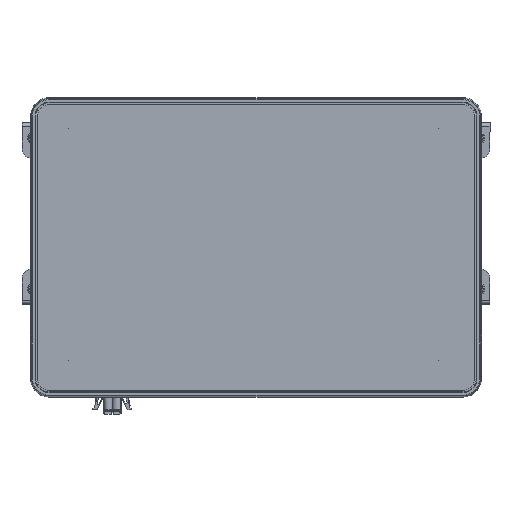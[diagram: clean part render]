
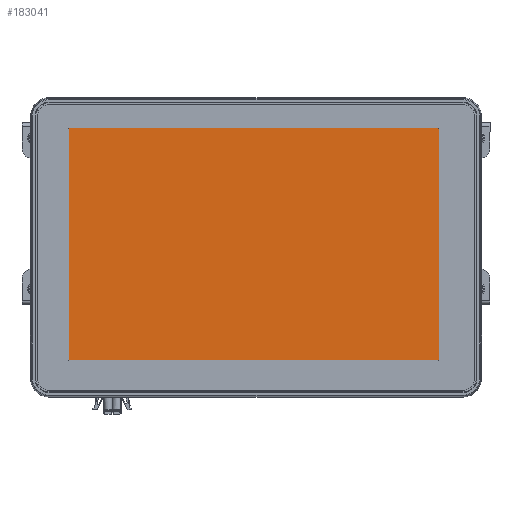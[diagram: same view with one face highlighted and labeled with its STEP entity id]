
A CAD part, top view. The second image highlights one B-rep face of the part: STEP entity #183041.
In plain terms, the highlighted planar face has unit normal (0, 0, 1).
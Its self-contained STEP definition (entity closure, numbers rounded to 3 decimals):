
#18880=FACE_OUTER_BOUND('',#29449,.T.);
#29449=EDGE_LOOP('',(#136106,#136107,#136108,#136109));
#43795=LINE('',#284565,#61201);
#43799=LINE('',#284572,#61205);
#43802=LINE('',#284578,#61208);
#43804=LINE('',#284581,#61210);
#61201=VECTOR('',#216597,10.);
#61205=VECTOR('',#216603,10.);
#61208=VECTOR('',#216608,10.);
#61210=VECTOR('',#216612,10.);
#78223=VERTEX_POINT('',#284562);
#78224=VERTEX_POINT('',#284564);
#78226=VERTEX_POINT('',#284570);
#78228=VERTEX_POINT('',#284576);
#98947=EDGE_CURVE('',#78223,#78224,#43795,.T.);
#98951=EDGE_CURVE('',#78226,#78223,#43799,.T.);
#98954=EDGE_CURVE('',#78228,#78226,#43802,.T.);
#98956=EDGE_CURVE('',#78224,#78228,#43804,.T.);
#136106=ORIENTED_EDGE('',*,*,#98956,.F.);
#136107=ORIENTED_EDGE('',*,*,#98947,.F.);
#136108=ORIENTED_EDGE('',*,*,#98951,.F.);
#136109=ORIENTED_EDGE('',*,*,#98954,.F.);
#171083=PLANE('',#192698);
#183041=ADVANCED_FACE('',(#18880),#171083,.F.);
#192698=AXIS2_PLACEMENT_3D('',#284582,#216613,#216614);
#216597=DIRECTION('',(0.,1.,0.));
#216603=DIRECTION('',(-1.,0.,0.));
#216608=DIRECTION('',(0.,-1.,0.));
#216612=DIRECTION('',(1.,0.,0.));
#216613=DIRECTION('center_axis',(0.,0.,
-1.));
#216614=DIRECTION('ref_axis',(-1.,0.,0.));
#284562=CARTESIAN_POINT('',(-110.29,-66.68,1.829));
#284564=CARTESIAN_POINT('',(-110.29,70.32,1.829));
#284565=CARTESIAN_POINT('',(-110.29,-66.68,1.829));
#284570=CARTESIAN_POINT('',(107.71,-66.68,1.829));
#284572=CARTESIAN_POINT('',(107.71,-66.68,1.829));
#284576=CARTESIAN_POINT('',(107.71,70.32,1.829));
#284578=CARTESIAN_POINT('',(107.71,70.32,1.829));
#284581=CARTESIAN_POINT('',(-110.29,70.32,1.829));
#284582=CARTESIAN_POINT('Origin',(-1.29,1.82,1.829));
